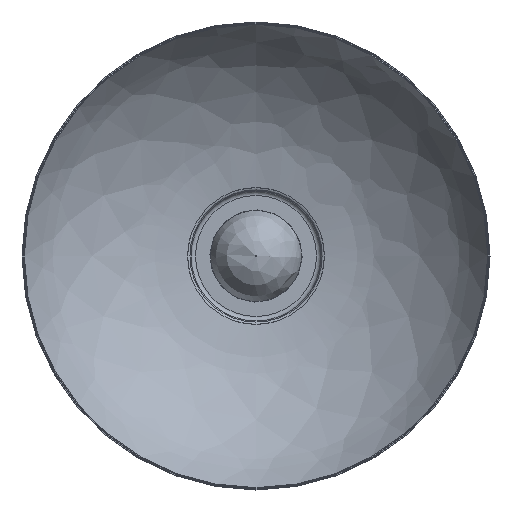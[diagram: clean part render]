
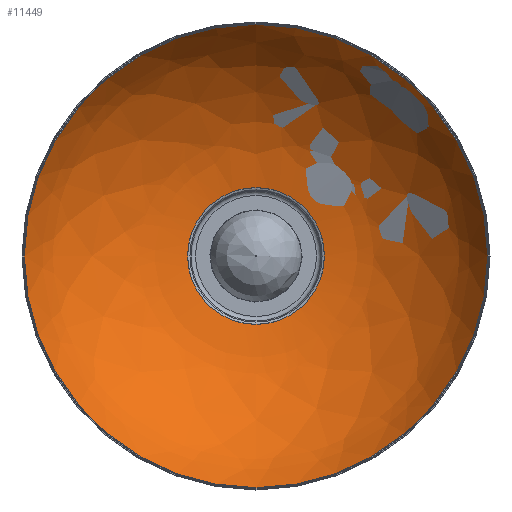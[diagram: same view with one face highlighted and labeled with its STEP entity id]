
A CAD part, front view. The second image highlights one B-rep face of the part: STEP entity #11449.
In plain terms, the highlighted free-form (B-spline) face has degree [2, 2] with [3, 9] control points.
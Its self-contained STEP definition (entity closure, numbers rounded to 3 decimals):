
#1520=(
BOUNDED_SURFACE()
B_SPLINE_SURFACE(2,2,((#18374,#18375,#18376,#18377,#18378,#18379,#18380,
#18381,#18382),(#18383,#18384,#18385,#18386,#18387,#18388,#18389,#18390,
#18391),(#18392,#18393,#18394,#18395,#18396,#18397,#18398,#18399,#18400)),
 .UNSPECIFIED.,.F.,.T.,.F.)
B_SPLINE_SURFACE_WITH_KNOTS((3,3),(3,2,2,2,3),(-1.455,-0.481),
(-3.142,-1.571,0.,1.571,3.142),
 .UNSPECIFIED.)
GEOMETRIC_REPRESENTATION_ITEM()
RATIONAL_B_SPLINE_SURFACE(((1.,0.707,1.,0.707,1.,
0.707,1.,0.707,1.),(0.884,0.625,
0.884,0.625,0.884,0.625,
0.884,0.625,0.884),(1.,0.707,
1.,0.707,1.,0.707,1.,0.707,1.)))
REPRESENTATION_ITEM('')
SURFACE()
);
#1578=FACE_OUTER_BOUND('',#2301,.T.);
#2301=EDGE_LOOP('',(#8008,#8009,#8010,#8011,#8012));
#4145=CIRCLE('',#12537,62.096);
#4147=CIRCLE('',#12539,62.096);
#4148=CIRCLE('',#12540,192.536);
#4149=CIRCLE('',#12541,210.536);
#5193=VERTEX_POINT('',#18369);
#5194=VERTEX_POINT('',#18370);
#5195=VERTEX_POINT('',#18401);
#6242=EDGE_CURVE('',#5193,#5194,#4145,.T.);
#6244=EDGE_CURVE('',#5194,#5193,#4147,.T.);
#6245=EDGE_CURVE('',#5194,#5195,#4148,.T.);
#6246=EDGE_CURVE('',#5195,#5195,#4149,.T.);
#8008=ORIENTED_EDGE('',*,*,#6242,.F.);
#8009=ORIENTED_EDGE('',*,*,#6244,.F.);
#8010=ORIENTED_EDGE('',*,*,#6245,.T.);
#8011=ORIENTED_EDGE('',*,*,#6246,.T.);
#8012=ORIENTED_EDGE('',*,*,#6245,.F.);
#11449=ADVANCED_FACE('',(#1578),#1520,.T.);
#12537=AXIS2_PLACEMENT_3D('',#18371,#14328,#14329);
#12539=AXIS2_PLACEMENT_3D('',#18373,#14332,#14333);
#12540=AXIS2_PLACEMENT_3D('',#18402,#14334,#14335);
#12541=AXIS2_PLACEMENT_3D('',#18403,#14336,#14337);
#14328=DIRECTION('center_axis',(0.,-1.,0.));
#14329=DIRECTION('ref_axis',(1.,0.,0.));
#14332=DIRECTION('center_axis',(0.,-1.,0.));
#14333=DIRECTION('ref_axis',(1.,0.,0.));
#14334=DIRECTION('center_axis',(1.,0.,0.));
#14335=DIRECTION('ref_axis',(0.,0.,1.));
#14336=DIRECTION('center_axis',(0.,-1.,0.));
#14337=DIRECTION('ref_axis',(0.,0.,-1.));
#18369=CARTESIAN_POINT('',(62.096,103.763,0.));
#18370=CARTESIAN_POINT('',(0.,103.763,62.096));
#18371=CARTESIAN_POINT('Origin',(0.,103.763,0.));
#18373=CARTESIAN_POINT('Origin',(0.,103.763,0.));
#18374=CARTESIAN_POINT('Ctrl Pts',(0.,103.763,62.096));
#18375=CARTESIAN_POINT('Ctrl Pts',(-62.096,103.763,62.096));
#18376=CARTESIAN_POINT('Ctrl Pts',(-62.096,103.763,0.));
#18377=CARTESIAN_POINT('Ctrl Pts',(-62.096,103.763,-62.096));
#18378=CARTESIAN_POINT('Ctrl Pts',(0.,103.763,-62.096));
#18379=CARTESIAN_POINT('Ctrl Pts',(62.096,103.763,-62.096));
#18380=CARTESIAN_POINT('Ctrl Pts',(62.096,103.763,0.));
#18381=CARTESIAN_POINT('Ctrl Pts',(62.096,103.763,62.096));
#18382=CARTESIAN_POINT('Ctrl Pts',(0.,103.763,62.096));
#18383=CARTESIAN_POINT('Ctrl Pts',(0.,91.993,163.352));
#18384=CARTESIAN_POINT('Ctrl Pts',(-163.352,91.993,163.352));
#18385=CARTESIAN_POINT('Ctrl Pts',(-163.352,91.993,0.));
#18386=CARTESIAN_POINT('Ctrl Pts',(-163.352,91.993,-163.352));
#18387=CARTESIAN_POINT('Ctrl Pts',(0.,91.993,-163.352));
#18388=CARTESIAN_POINT('Ctrl Pts',(163.352,91.993,-163.352));
#18389=CARTESIAN_POINT('Ctrl Pts',(163.352,91.993,0.));
#18390=CARTESIAN_POINT('Ctrl Pts',(163.352,91.993,163.352));
#18391=CARTESIAN_POINT('Ctrl Pts',(0.,91.993,163.352));
#18392=CARTESIAN_POINT('Ctrl Pts',(0.,1.633,210.536));
#18393=CARTESIAN_POINT('Ctrl Pts',(-210.536,1.633,210.536));
#18394=CARTESIAN_POINT('Ctrl Pts',(-210.536,1.633,0.));
#18395=CARTESIAN_POINT('Ctrl Pts',(-210.536,1.633,-210.536));
#18396=CARTESIAN_POINT('Ctrl Pts',(0.,1.633,-210.536));
#18397=CARTESIAN_POINT('Ctrl Pts',(210.536,1.633,-210.536));
#18398=CARTESIAN_POINT('Ctrl Pts',(210.536,1.633,0.));
#18399=CARTESIAN_POINT('Ctrl Pts',(210.536,1.633,210.536));
#18400=CARTESIAN_POINT('Ctrl Pts',(0.,1.633,210.536));
#18401=CARTESIAN_POINT('',(0.,1.633,210.536));
#18402=CARTESIAN_POINT('Origin',(0.,-87.486,
39.866));
#18403=CARTESIAN_POINT('Origin',(0.,1.633,0.));
